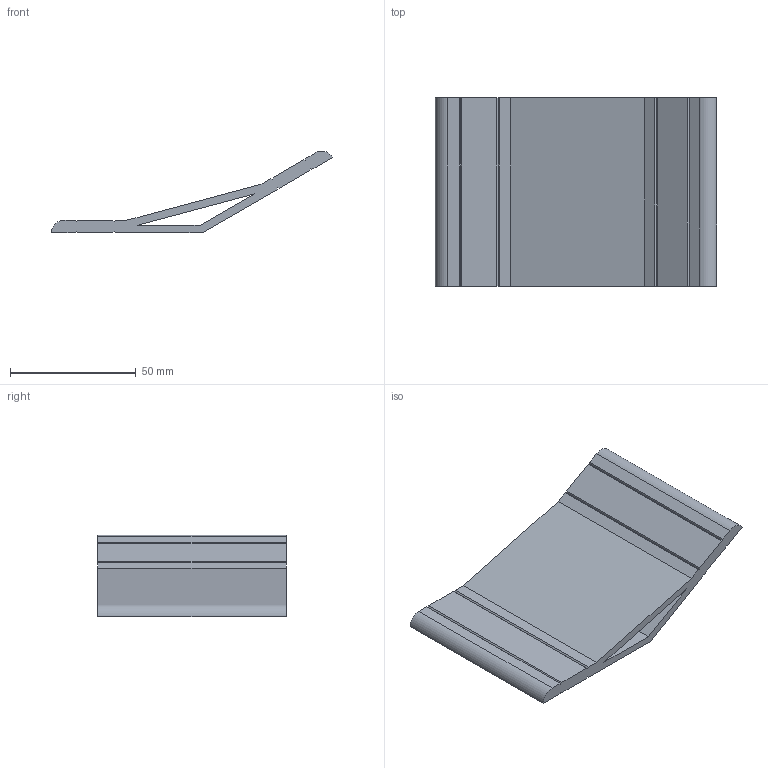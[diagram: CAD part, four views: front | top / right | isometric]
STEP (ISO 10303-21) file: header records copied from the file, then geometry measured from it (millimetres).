
FILE_DESCRIPTION(/* description */ ('Unknown'),/* implementation_level */ '2;1');
FILE_NAME(/* name */ 'NMV60150',/* time_stamp */ '2026-09-02T13:06:35+08:00',/* author */ ('Unknown'),/* organization */ ('Unknown'),/* preprocessor_version */ 'ST-DEVELOPER v16.7',/* originating_system */ 'DEX',/* authorisation */ $);
FILE_SCHEMA (('AUTOMOTIVE_DESIGN {1 0 10303 214 3 1 1}'));
Length unit declared in the file: millimetre
Products named in the file (1): NMV60150
Bounding box: 111.96 x 75 x 32.5 mm (x, y, z)
Volume: 47151.3 mm3; surface area: 26959.1 mm2
Topology: 1 solids, 1 shells, 36 faces, 102 edges, 68 vertices
Faces by surface type: plane 34, cylinder 2
Entity records: 1430 total; most frequent: CARTESIAN_POINT 207, ORIENTED_EDGE 204, DIRECTION 180, EDGE_CURVE 102, LINE 98, VECTOR 98, VERTEX_POINT 68, AXIS2_PLACEMENT_3D 41
